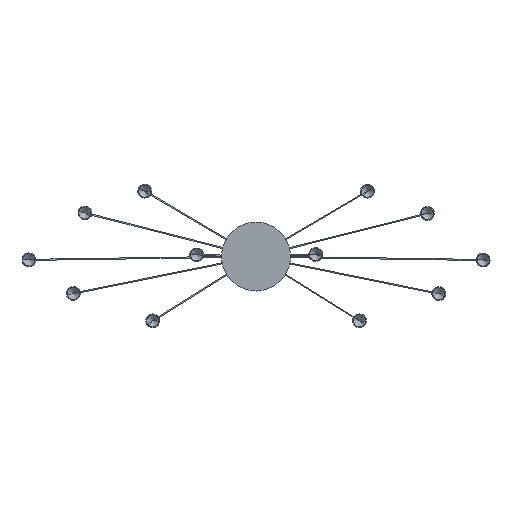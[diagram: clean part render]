
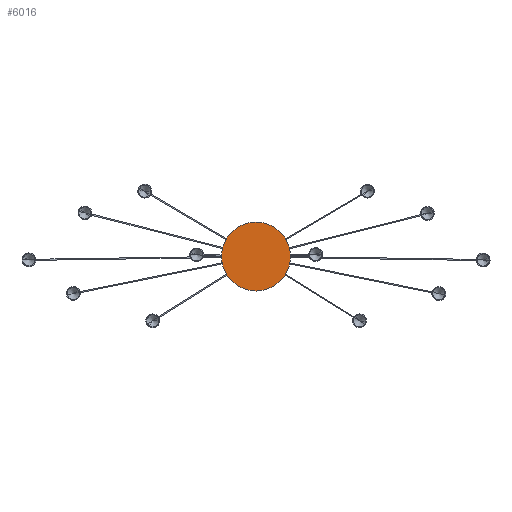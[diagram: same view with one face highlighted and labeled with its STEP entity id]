
A CAD part, front view. The second image highlights one B-rep face of the part: STEP entity #6016.
In plain terms, the highlighted planar face has unit normal (0, -1, 0).
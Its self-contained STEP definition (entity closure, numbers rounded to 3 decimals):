
#288 = DIRECTION ( 'NONE',  ( 0., -1., 0. ) ) ;
#700 = DIRECTION ( 'NONE',  ( 0., 0., -1. ) ) ;
#1178 = AXIS2_PLACEMENT_3D ( 'NONE', #2662, #3355, #5548 ) ;
#1387 = AXIS2_PLACEMENT_3D ( 'NONE', #6880, #288, #700 ) ;
#1395 = AXIS2_PLACEMENT_3D ( 'NONE', #6098, #3403, #3481 ) ;
#1807 = ORIENTED_EDGE ( 'NONE', *, *, #6396, .T. ) ;
#2283 = PLANE ( 'NONE',  #1395 ) ;
#2662 = CARTESIAN_POINT ( 'NONE',  ( 0., -21.5, 0. ) ) ;
#2745 = EDGE_LOOP ( 'NONE', ( #3423, #1807 ) ) ;
#3019 = CARTESIAN_POINT ( 'NONE',  ( 0., -21.5, 125. ) ) ;
#3355 = DIRECTION ( 'NONE',  ( 0., -1., 0. ) ) ;
#3403 = DIRECTION ( 'NONE',  ( 0., -1., 0. ) ) ;
#3423 = ORIENTED_EDGE ( 'NONE', *, *, #3672, .T. ) ;
#3481 = DIRECTION ( 'NONE',  ( 0., 0., -1. ) ) ;
#3488 = CIRCLE ( 'NONE', #1387, 125. ) ;
#3672 = EDGE_CURVE ( 'NONE', #6906, #5341, #3488, .T. ) ;
#3839 = CIRCLE ( 'NONE', #1178, 125. ) ;
#3914 = FACE_OUTER_BOUND ( 'NONE', #2745, .T. ) ;
#5106 = CARTESIAN_POINT ( 'NONE',  ( 0., -21.5, -125. ) ) ;
#5341 = VERTEX_POINT ( 'NONE', #3019 ) ;
#5548 = DIRECTION ( 'NONE',  ( 0., 0., -1. ) ) ;
#6016 = ADVANCED_FACE ( 'NONE', ( #3914 ), #2283, .T. ) ;
#6098 = CARTESIAN_POINT ( 'NONE',  ( 125., -21.5, 0. ) ) ;
#6396 = EDGE_CURVE ( 'NONE', #5341, #6906, #3839, .T. ) ;
#6880 = CARTESIAN_POINT ( 'NONE',  ( 0., -21.5, 0. ) ) ;
#6906 = VERTEX_POINT ( 'NONE', #5106 ) ;
